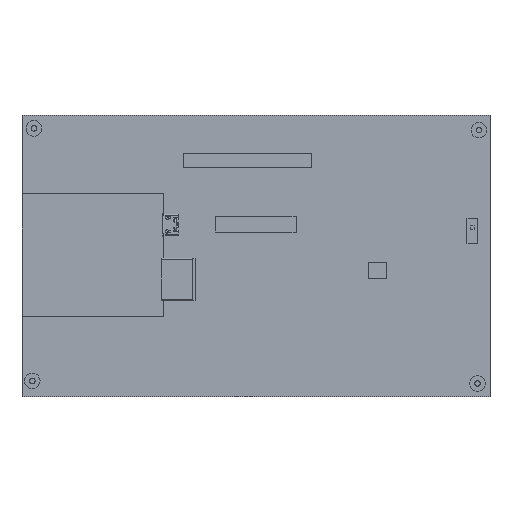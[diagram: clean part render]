
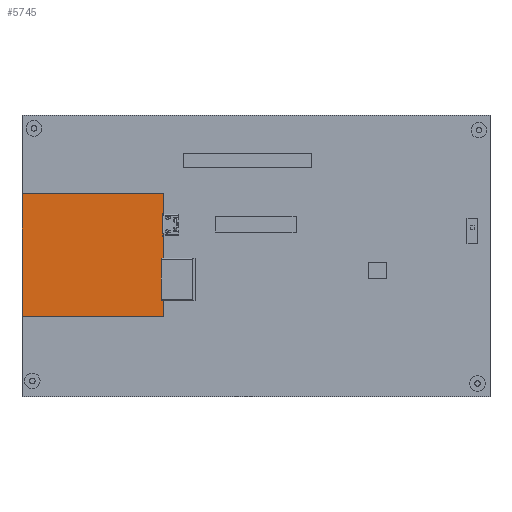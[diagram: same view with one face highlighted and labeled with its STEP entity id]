
A CAD part, top view. The second image highlights one B-rep face of the part: STEP entity #5745.
In plain terms, the highlighted planar face has unit normal (0, 0, 1).
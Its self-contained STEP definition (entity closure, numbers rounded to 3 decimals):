
#2=DIRECTION('',(0.,1.,0.));
#3=VECTOR('',#2,43.2);
#4=CARTESIAN_POINT('',(-82.4,-21.3,-3.116));
#5=LINE('',#4,#3);
#30=DIRECTION('',(-1.,0.,0.));
#31=VECTOR('',#30,50.);
#32=CARTESIAN_POINT('',(-32.4,21.9,-3.116));
#33=LINE('',#32,#31);
#34=DIRECTION('',(0.,1.,0.));
#35=VECTOR('',#34,43.2);
#36=CARTESIAN_POINT('',(-32.4,-21.3,-3.116));
#37=LINE('',#36,#35);
#38=DIRECTION('',(1.,0.,0.));
#39=VECTOR('',#38,50.);
#40=CARTESIAN_POINT('',(-82.4,-21.3,-3.116));
#41=LINE('',#40,#39);
#4502=CARTESIAN_POINT('',(-32.4,-21.3,-3.116));
#4503=CARTESIAN_POINT('',(-32.4,21.9,-3.116));
#4504=VERTEX_POINT('',#4502);
#4505=VERTEX_POINT('',#4503);
#4506=CARTESIAN_POINT('',(-82.4,-21.3,-3.116));
#4507=CARTESIAN_POINT('',(-82.4,21.9,-3.116));
#4508=VERTEX_POINT('',#4506);
#4509=VERTEX_POINT('',#4507);
#5731=CARTESIAN_POINT('',(0.,61.858,-3.116));
#5732=DIRECTION('',(0.,0.,1.));
#5733=DIRECTION('',(1.,0.,0.));
#5734=AXIS2_PLACEMENT_3D('',#5731,#5732,#5733);
#5735=PLANE('',#5734);
#5736=ORIENTED_EDGE('',*,*,#5712,.T.);
#5738=ORIENTED_EDGE('',*,*,#5737,.F.);
#5740=ORIENTED_EDGE('',*,*,#5739,.F.);
#5742=ORIENTED_EDGE('',*,*,#5741,.F.);
#5743=EDGE_LOOP('',(#5736,#5738,#5740,#5742));
#5744=FACE_OUTER_BOUND('',#5743,.F.);
#5745=ADVANCED_FACE('',(#5744),#5735,.T.);
#5712=EDGE_CURVE('',#4508,#4509,#5,.T.);
#5737=EDGE_CURVE('',#4505,#4509,#33,.T.);
#5739=EDGE_CURVE('',#4504,#4505,#37,.T.);
#5741=EDGE_CURVE('',#4508,#4504,#41,.T.);
